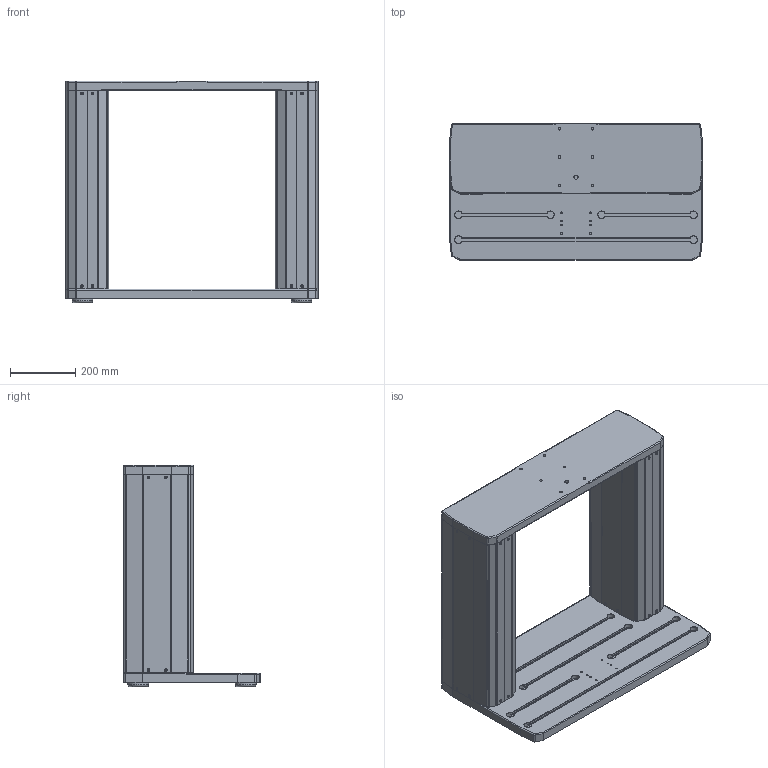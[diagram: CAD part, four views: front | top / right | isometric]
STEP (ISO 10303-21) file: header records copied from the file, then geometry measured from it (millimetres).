
FILE_DESCRIPTION(/* description */ (''),/* implementation_level */ '2;1');
FILE_NAME(/* name */ 'C:\Users\ntakaki\Desktop\New folder (2)\AC1095-3\AC1095-3.stp',/* time_stamp */ '2021-11-08T14:53:16-05:00',/* author */ ('ntakaki'),/* organization */ (''),/* preprocessor_version */ 'ST-DEVELOPER v18.1',/* originating_system */ 'AutoCAD Mechanical',/* authorisation */ '');
FILE_SCHEMA (('AUTOMOTIVE_DESIGN { 1 0 10303 214 3 1 1 }'));
Products named in the file (1): Product
Bounding box: 776.73 x 418.59 x 680.47 mm (x, y, z)
Volume: 47001647.1 mm3; surface area: 3087970.7 mm2
Topology: 9 solids, 13 shells, 1785 faces, 4056 edges, 2455 vertices
Faces by surface type: plane 764, cone 401, cylinder 376, bspline 224, torus 20
Full cylindrical faces by diameter (mm): 3.943 x8, 4.252 x2, 4.277 x5, 4.826 x8, 7.798 x32, 7.938 x16, 8.128 x4, 8.255 x18, 9.652 x4, 11.906 x16, 12.7 x1, 13.462 x14, 15.081 x4, 15.875 x4, 22.352 x4, 28.702 x4, 63.5 x4, 67.31 x4
Entity records: 54206 total; most frequent: CARTESIAN_POINT 15472, ORIENTED_EDGE 8112, DIRECTION 7707, EDGE_CURVE 4056, AXIS2_PLACEMENT_3D 2748, VERTEX_POINT 2455, LINE 2211, VECTOR 2211
